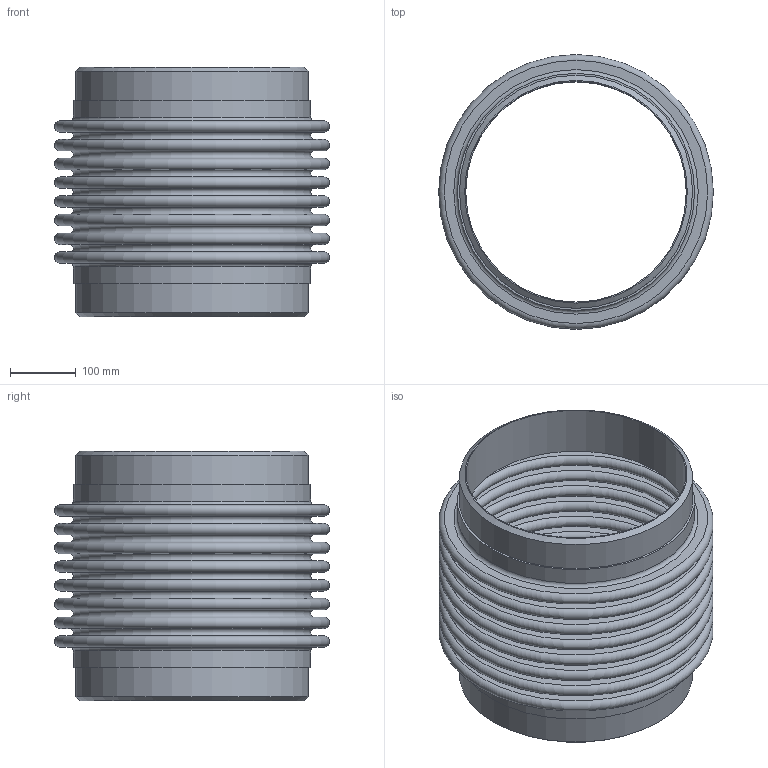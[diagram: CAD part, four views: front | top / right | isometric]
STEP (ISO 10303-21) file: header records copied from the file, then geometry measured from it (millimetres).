
FILE_DESCRIPTION(/* description */ ('EXPANSION JOINT,SINGLE, WELD ENDS,4 INCH NOMINAL'),/* implementation_level */ '2;1');
FILE_NAME(/* name */ 'US-14-300S- WELD-ENDS.stp',/* time_stamp */ '2026-07-28T11:11:49-05:00',/* author */ ('jorgef'),/* organization */ (''),/* preprocessor_version */ 'ST-DEVELOPER v20.1',/* originating_system */ 'Autodesk Inventor 2026',/* authorisation */ '');
FILE_SCHEMA (('AUTOMOTIVE_DESIGN { 1 0 10303 214 3 1 1 }'));
Length unit declared in the file: inch
Products named in the file (3): SINGLE STOCK  BELLOW WELDED ENDS 14-300 PSIG; STOCK BELLOW - US-14-8-300S; PIPE- 14 -300 PSIG
Assembly tree (3 placements, depth 2):
  SINGLE STOCK  BELLOW WELDED ENDS 14-300 PSIG
    STOCK BELLOW - US-14-8-300S
    PIPE- 14 -300 PSIG  x2
Bounding box: 419.1 x 419.1 x 381 mm (x, y, z)
Volume: 3886800.1 mm3; surface area: 1934045 mm2
Topology: 5 solids, 5 shells, 86 faces, 132 edges, 89 vertices
Faces by surface type: plane 42, torus 34, cylinder 8, cone 2
Full cylindrical faces by diameter (mm): 336.55 x2, 355.6 x4, 361.696 x2
Entity records: 2033 total; most frequent: DIRECTION 413, CARTESIAN_POINT 293, ORIENTED_EDGE 246, AXIS2_PLACEMENT_3D 203, EDGE_CURVE 123, EDGE_LOOP 121, CIRCLE 116, VERTEX_POINT 82
